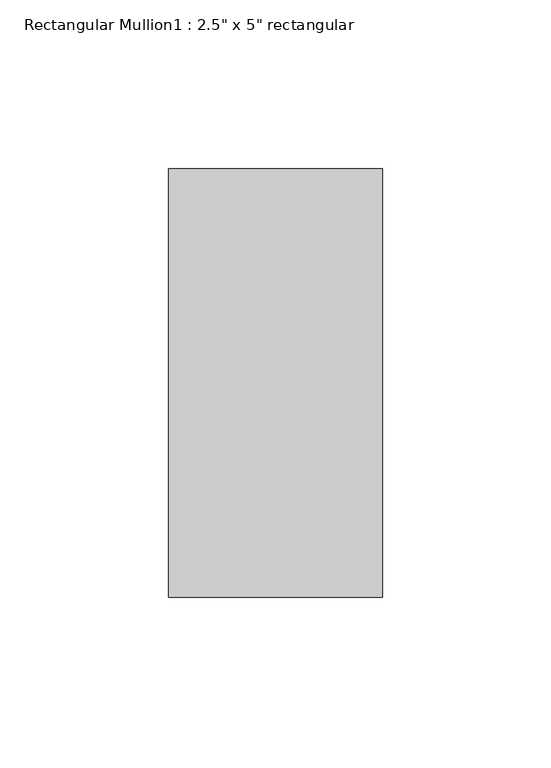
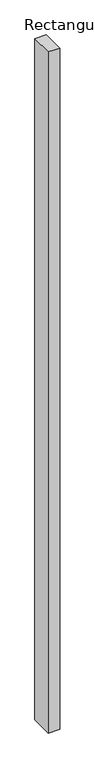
"""IFC4 building model written with IfcOpenShell, lengths in millimetres: member geometry."""

from ifc_helpers import new_model, si_unit, frame, origin, place, context, project, spatial, polyline, outline, extrude, source, transform, mapped, element, save


def member_5d333a65(model_context):
    return source(origin(), model_context, "Body", "SweptSolid", [
        extrude(outline(polyline([(0.0, 63.5), (0.0, -63.5), (-63.5, -63.5), (-63.5, 63.5), (0.0, 63.5)])), frame((0.0, 0.0, -3971.7835741), z_axis=(0.0, 0.0, 1.0), x_axis=(1.0, 0.0, 0.0)), (0.0, 0.0, 1.0), 3971.7835741),
    ])


if __name__ == "__main__":
    model = new_model("IFC4")
    model_context = context("Model", 3, world=origin())
    ifc_project = project(units=[si_unit("LENGTHUNIT", "METRE", prefix="MILLI")], contexts=[model_context])
    site = spatial("IfcSite", under=ifc_project)
    building = spatial("IfcBuilding", under=site)
    placement = place(None, origin())
    member_shape = member_5d333a65(model_context)
    element("IfcMember", 1, ObjectType="Rectangular Mullion1 : 2.5\" x 5\" rectangular", at=placement, inside=building, context=model_context, shape_type="MappedRepresentation", body=[
        mapped(member_shape, transform((0.0, 0.0, 0.0), x_axis=(1.0, 0.0, 0.0), y_axis=(0.0, 1.0, 0.0), z_axis=(0.0, 0.0, 1.0))),
    ])
    save(model, "model.ifc")
